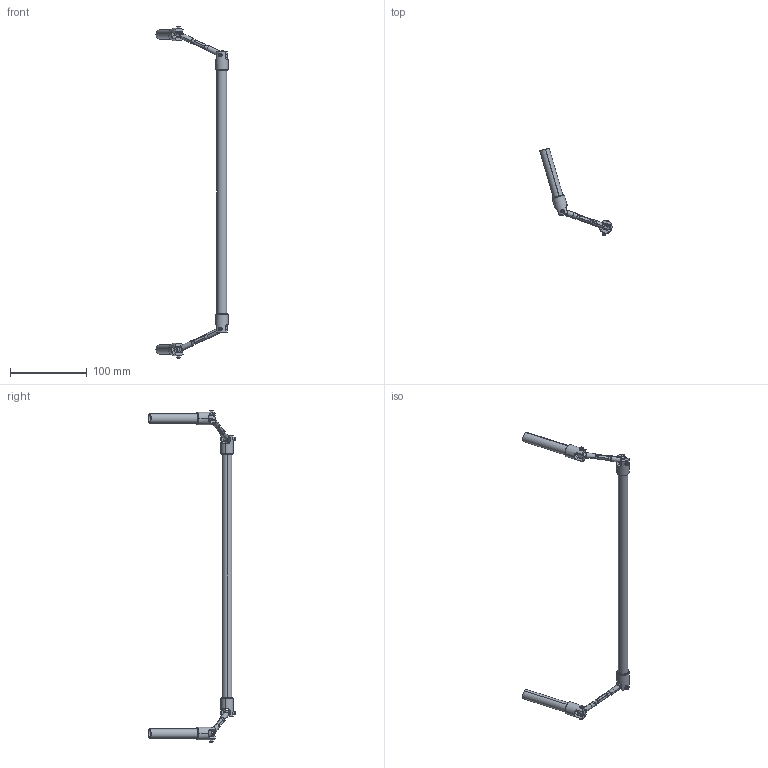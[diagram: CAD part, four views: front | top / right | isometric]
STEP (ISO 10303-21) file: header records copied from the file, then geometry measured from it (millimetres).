
FILE_DESCRIPTION (( 'STEP AP214' ), '1' );
FILE_NAME ('Differential Pivot Assembly.STEP', '2019-04-08T23:06:55', ( '' ), ( '' ), 'SwSTEP 2.0', 'SolidWorks 2016', '' );
FILE_SCHEMA (( 'AUTOMOTIVE_DESIGN' ));
Length unit declared in the file: inch
Products named in the file (10): Turnbuckle screw; turnbuckle_holder_no_middle_extrude; 13.5 Inch Aluminum Rod; Turnbuckle; 4-40_SHCS_4-40 SHCS X .625; 3 inch Aluminum Rod; Differential Pivot Assembly; Turnbuckle Eyes; Ball bearing; 93365A120_HEAT-SET INSERTS FOR PLASTICS_93365A120
Assembly tree (24 placements, depth 3):
  Differential Pivot Assembly
    13.5 Inch Aluminum Rod
    turnbuckle_holder_no_middle_extrude  x4
    93365A120_HEAT-SET INSERTS FOR PLASTICS_93365A120  x4
    Turnbuckle  x2
      Turnbuckle Eyes
      Turnbuckle screw
    Ball bearing  x4
    3 inch Aluminum Rod  x2
    4-40_SHCS_4-40 SHCS X .625  x4
Bounding box: 94.31 x 113.84 x 433.51 mm (x, y, z)
Volume: 52347.7 mm3; surface area: 48024 mm2
Topology: 25 solids, 25 shells, 2272 faces, 5910 edges, 3700 vertices
Faces by surface type: cylinder 886, plane 654, bspline 596, cone 128, torus 8
Entity records: 25737 total; most frequent: CARTESIAN_POINT 13445, ORIENTED_EDGE 3034, DIRECTION 1992, EDGE_CURVE 1517, VERTEX_POINT 953, AXIS2_PLACEMENT_3D 862, EDGE_LOOP 608, FACE_OUTER_BOUND 587
